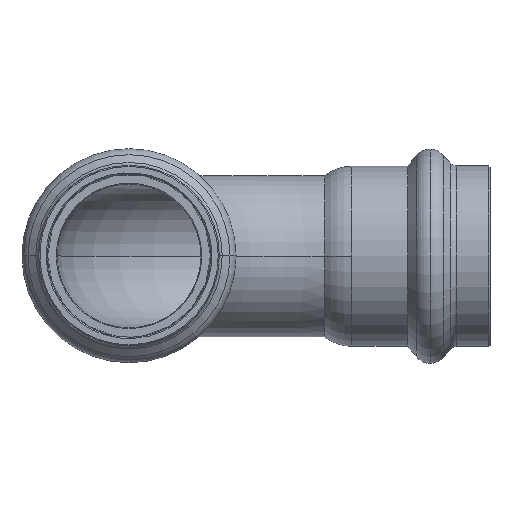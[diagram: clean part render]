
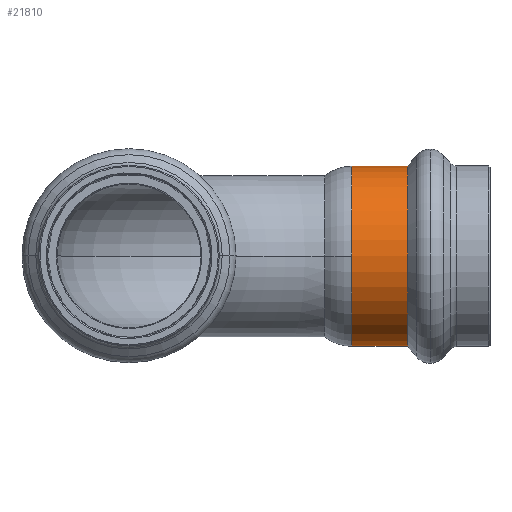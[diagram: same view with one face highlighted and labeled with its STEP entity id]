
A CAD part, top view. The second image highlights one B-rep face of the part: STEP entity #21810.
In plain terms, the highlighted cylindrical face has radius 15.65 mm (diameter 31.3 mm), a partial arc.
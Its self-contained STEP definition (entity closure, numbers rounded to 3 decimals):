
#21270=CARTESIAN_POINT('',(-355.9,7.373,15.65));
#21280=VERTEX_POINT('',#21270);
#21310=CARTESIAN_POINT('',(-355.9,7.373,
0.));
#21320=DIRECTION('',(1.,0.,0.));
#21330=DIRECTION('',(0.,0.,1.));
#21340=AXIS2_PLACEMENT_3D('',#21310,#21320,#21330);
#21350=CIRCLE('',#21340,15.65);
#21360=CARTESIAN_POINT('',(-355.9,7.373,-15.65));
#21370=VERTEX_POINT('',#21360);
#21380=EDGE_CURVE('',#21370,#21280,#21350,.T.);
#21500=CARTESIAN_POINT('',(-360.756,7.373,
0.));
#21510=DIRECTION('',(1.,0.,0.));
#21520=DIRECTION('',(0.,0.,1.));
#21530=AXIS2_PLACEMENT_3D('',#21500,#21510,#21520);
#21540=CYLINDRICAL_SURFACE('',#21530,15.65);
#21550=CARTESIAN_POINT('',(-360.756,7.373,15.65));
#21560=DIRECTION('',(1.,0.,0.));
#21570=VECTOR('',#21560,1.);
#21580=LINE('',#21550,#21570);
#21590=CARTESIAN_POINT('',(-365.613,7.373,15.65));
#21600=VERTEX_POINT('',#21590);
#21610=EDGE_CURVE('',#21600,#21280,#21580,.T.);
#21620=ORIENTED_EDGE('',*,*,#21610,.T.);
#21630=CARTESIAN_POINT('',(-365.613,7.373,
0.));
#21640=DIRECTION('',(1.,0.,0.));
#21650=DIRECTION('',(0.,0.,1.));
#21660=AXIS2_PLACEMENT_3D('',#21630,#21640,#21650);
#21670=CIRCLE('',#21660,15.65);
#21680=CARTESIAN_POINT('',(-365.613,7.373,-15.65));
#21690=VERTEX_POINT('',#21680);
#21700=EDGE_CURVE('',#21690,#21600,#21670,.T.);
#21710=ORIENTED_EDGE('',*,*,#21700,.T.);
#21720=CARTESIAN_POINT('',(-360.756,7.373,-15.65));
#21730=DIRECTION('',(1.,0.,0.));
#21740=VECTOR('',#21730,1.);
#21750=LINE('',#21720,#21740);
#21760=EDGE_CURVE('',#21690,#21370,#21750,.T.);
#21770=ORIENTED_EDGE('',*,*,#21760,.F.);
#21780=ORIENTED_EDGE('',*,*,#21380,.F.);
#21790=EDGE_LOOP('',(#21780,#21770,#21710,#21620));
#21800=FACE_OUTER_BOUND('',#21790,.T.);
#21810=ADVANCED_FACE('',(#21800),#21540,.T.);
